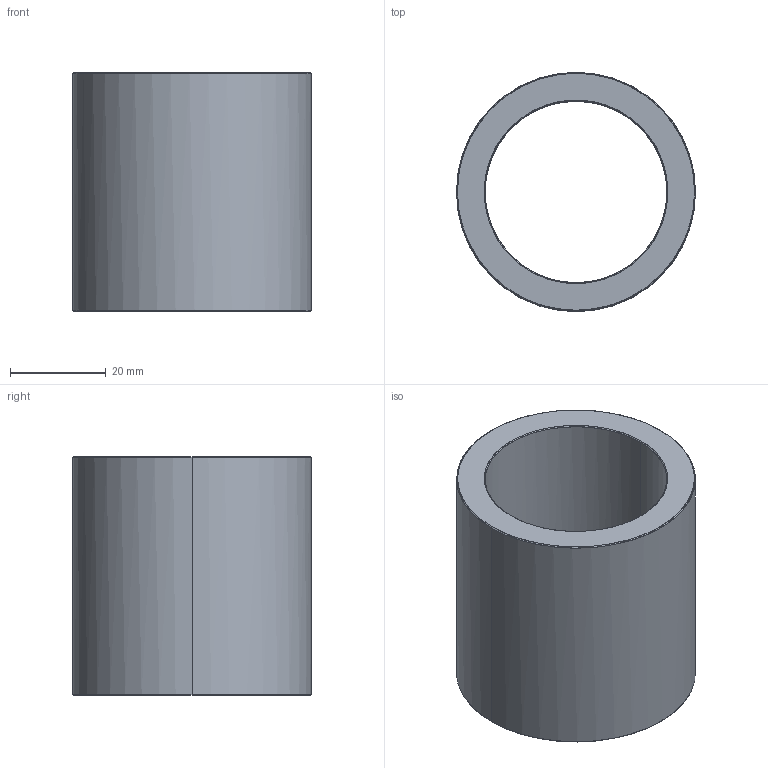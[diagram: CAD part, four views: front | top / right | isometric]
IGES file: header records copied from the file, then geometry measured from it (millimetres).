
Start section: Write IGES format                                    datakit 2008 (c)
Global section: file name: Unknown; native system: DATAKIT Converter; preprocessor: Unknown; author: Unknown; organization: Unknown; date: 950613.180003; units: millimetre
Bounding box: 50 x 49.99 x 50 mm (x, y, z)
Surface area: 15417 mm2 (no closed solid volume)
Topology: 0 solids, 0 shells, 14 faces, 56 edges, 56 vertices
Faces by surface type: revolution 12, bspline 2
